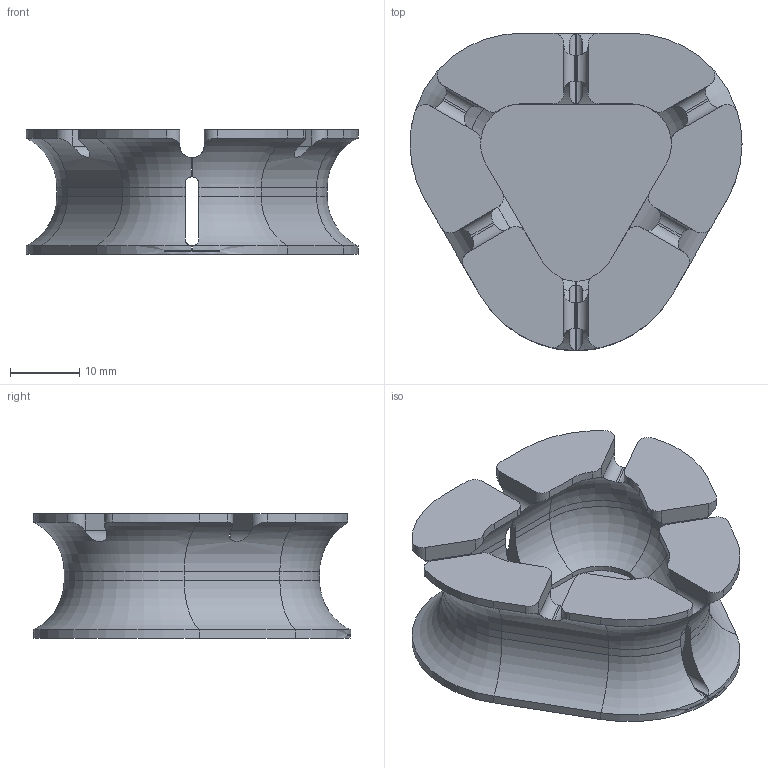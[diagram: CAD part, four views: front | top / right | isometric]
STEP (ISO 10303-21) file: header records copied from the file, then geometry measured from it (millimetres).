
FILE_DESCRIPTION (( 'STEP AP214' ), '1' );
FILE_NAME ('Earbud Case v1-4 MEDIUM - 3.5mm.STEP', '2018-04-27T23:13:15', ( '' ), ( '' ), 'SwSTEP 2.0', 'SolidWorks 2015', '' );
FILE_SCHEMA (( 'AUTOMOTIVE_DESIGN' ));
Length unit declared in the file: millimetre
Products named in the file (2): Earbud Case v1-4 MEDIUM - 3.5mm
Bounding box: 48 x 45.86 x 18 mm (x, y, z)
Volume: 8600.4 mm3; surface area: 8720.7 mm2
Topology: 1 solids, 1 shells, 199 faces, 535 edges, 338 vertices
Faces by surface type: cylinder 96, plane 76, torus 18, bspline 6, cone 3
Entity records: 7020 total; most frequent: CARTESIAN_POINT 2094, ORIENTED_EDGE 1070, DIRECTION 988, EDGE_CURVE 535, AXIS2_PLACEMENT_3D 367, VERTEX_POINT 338, VECTOR 254, LINE 254
